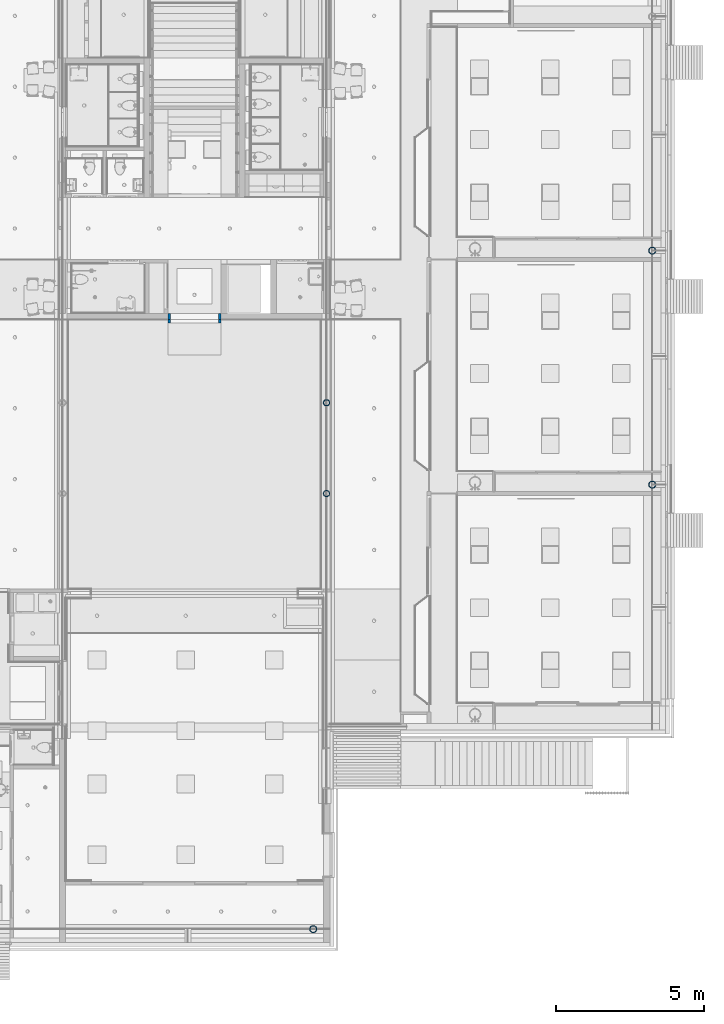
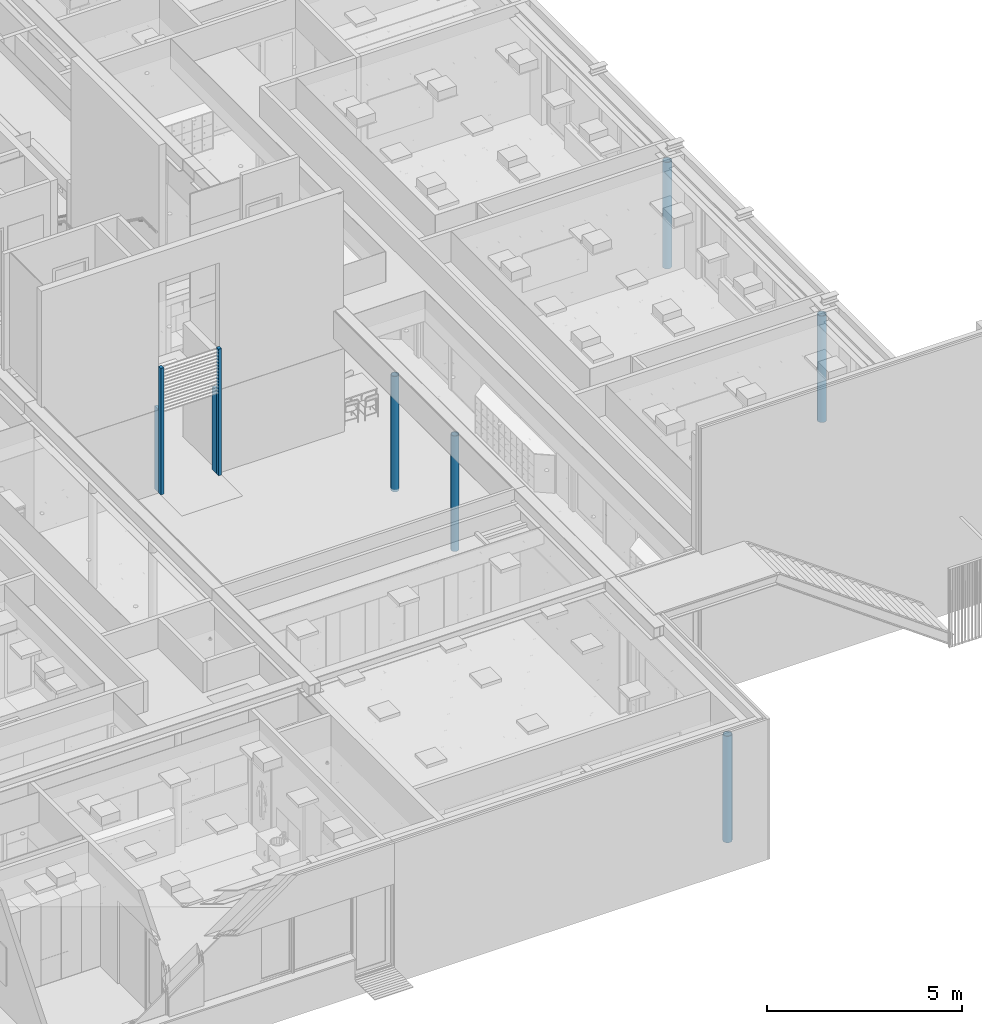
# One storey, part 17 of 347: 9 columns.
"""IFC2X3 building model written with IfcOpenShell, lengths in millimetres."""

from ifc_helpers import new_model, entity, si_unit, converted_unit, derived_unit, money_unit, direction, frame, origin_with_axes, place, context, subcontext, project, spatial, faceted_brep, material, type_object, element, save


model = new_model("IFC2X3")

# Units and contexts
model_context = context("Model", 3, precision=0.01, world=origin_with_axes(), true_north=direction((0.0, 1.0)))
plan_context = context("Plan", 3, precision=0.01, world=origin_with_axes(), true_north=direction((0.0, 1.0)))
body_context = subcontext(model_context, "Body", "Model", "MODEL_VIEW")
ifc_project = project(units=[si_unit("LENGTHUNIT", "METRE", prefix="MILLI"), si_unit("AREAUNIT", "SQUARE_METRE"), si_unit("VOLUMEUNIT", "CUBIC_METRE"), converted_unit("PLANEANGLEUNIT", "DEGREE", entity("IfcPlaneAngleMeasure", 0.0174532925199), si_unit("PLANEANGLEUNIT", "RADIAN"), dimensions=[0, 0, 0, 0, 0, 0, 0]), money_unit("EUR"), converted_unit("TIMEUNIT", "Year", entity("IfcTimeMeasure", 31556926.0), si_unit("TIMEUNIT", "SECOND"), dimensions=[0, 0, 1, 0, 0, 0, 0]), si_unit("MASSUNIT", "GRAM", prefix="KILO"), si_unit("THERMODYNAMICTEMPERATUREUNIT", "DEGREE_CELSIUS"), si_unit("LUMINOUSINTENSITYUNIT", "LUMEN"), si_unit("ENERGYUNIT", "JOULE", prefix="MEGA"), derived_unit("THERMALCONDUCTANCEUNIT", [(si_unit("POWERUNIT", "WATT"), 1), (si_unit("LENGTHUNIT", "METRE"), -1), (si_unit("THERMODYNAMICTEMPERATUREUNIT", "KELVIN"), -1)]), derived_unit("SPECIFICHEATCAPACITYUNIT", [(si_unit("ENERGYUNIT", "JOULE"), 1), (si_unit("MASSUNIT", "GRAM", prefix="KILO"), -1), (si_unit("THERMODYNAMICTEMPERATUREUNIT", "KELVIN"), -1)]), derived_unit("MASSDENSITYUNIT", [(si_unit("MASSUNIT", "GRAM", prefix="KILO"), 1), (si_unit("VOLUMEUNIT", "CUBIC_METRE"), -1)])], contexts=[model_context, plan_context])

# Site, building, storey
site_placement = place(None, origin_with_axes())
site = spatial("IfcSite", under=ifc_project, at=site_placement, Name="Site", CompositionType="ELEMENT")
building_placement = place(site_placement, origin_with_axes())
building = spatial("IfcBuilding", under=site, at=building_placement, Name="Naam gebouw", CompositionType="ELEMENT")
storey_placement = place(building_placement, origin_with_axes())
storey = spatial("IfcBuildingStorey", under=building, at=storey_placement, Name="begane grond", CompositionType="ELEMENT", Elevation=0.0)

# Columns
ifc_material_1 = material(Name="32 Hout binnenkozijn oregon pine")
column_type_1 = type_object("IfcColumnType", Name="32 Hout binnenkozijn oregon pine 90 x 210", PredefinedType="COLUMN")
for number, where, z_axis, x_axis in (
    (1, (40930.0, 26045.0, 0.0), (0.0, 0.0, 1.0), (1.0, 0.0, 0.0)),
    (2, (39220.0, 26045.0, 0.0), (0.0, 0.0, 1.0), (1.0, 0.0, 0.0)),
):
    element("IfcColumn", number, at=place(storey_placement, frame(where, z_axis=z_axis, x_axis=x_axis)), inside=storey, type_object=column_type_1, material=ifc_material_1, Name="28_kolom ø 273mm", ObjectType="COLUMN", context=body_context, shape_type="Brep", body=[
        faceted_brep([(-45.0, -105.0, 2600.0), (-45.0, -105.0, 0.0), (45.0, -105.0, 0.0), (45.0, -105.0, 2600.0), (-45.0, 105.0, 2600.0), (-45.0, 105.0, 0.0), (45.0, 105.0, 0.0), (45.0, 105.0, 2600.0)], [[[0, 1, 2, 3]], [[4, 5, 1, 0]], [[2, 1, 5, 6]], [[3, 2, 6, 7]], [[4, 0, 3, 7]], [[7, 6, 5, 4]]]),
    ])
ifc_material_2 = material(Name="Metaal - Staal C wit")
column_type_2 = type_object("IfcColumnType", Name="Lucht D245", PredefinedType="COLUMN")
column_1_placement = place(storey_placement, frame((55575.0, 28275.0, -70.0), z_axis=(0.0, 0.0, 1.0), x_axis=(1.0, 0.0, 0.0)))
element("IfcColumn", 3, at=column_1_placement, inside=storey, type_object=column_type_2, material=ifc_material_2, Name="28_kolom ø 273mm", ObjectType="COLUMN", context=body_context, shape_type="Brep", body=[
    faceted_brep([(-122.25, 0.0, 0.0), (-119.184937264, -27.2031841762, 0.0), (-119.184937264, -27.2031841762, 3330.0), (-122.25, 0.0, 3330.0), (-119.184937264, 27.2031841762, 0.0), (-110.143444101, 53.0422871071, 0.0), (-95.5788987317, 76.2216282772, 0.0), (-76.2216282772, 95.5788987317, 0.0), (-53.0422871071, 110.143444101, 0.0), (-27.2031841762, 119.184937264, 0.0), (0.0, 122.25, 0.0), (27.2031841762, 119.184937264, 0.0), (53.0422871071, 110.143444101, 0.0), (76.2216282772, 95.5788987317, 0.0), (95.5788987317, 76.2216282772, 0.0), (110.143444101, 53.0422871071, 0.0), (119.184937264, 27.2031841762, 0.0), (122.25, 0.0, 0.0), (119.184937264, -27.2031841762, 0.0), (110.143444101, -53.0422871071, 0.0), (95.5788987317, -76.2216282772, 0.0), (76.2216282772, -95.5788987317, 0.0), (53.0422871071, -110.143444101, 0.0), (27.2031841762, -119.184937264, 0.0), (0.0, -122.25, 0.0), (-27.2031841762, -119.184937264, 0.0), (-53.0422871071, -110.143444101, 0.0), (-76.2216282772, -95.5788987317, 0.0), (-95.5788987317, -76.2216282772, 0.0), (-110.143444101, -53.0422871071, 0.0), (-106.25, 0.0, 0.0), (-102.629619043, -27.4995235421, 0.0), (-92.0151991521, -53.125, 0.0), (-75.1300955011, -75.1300955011, 0.0), (-53.125, -92.0151991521, 0.0), (-27.4995235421, -102.629619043, 0.0), (0.0, -106.25, 0.0), (27.4995235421, -102.629619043, 0.0), (53.125, -92.0151991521, 0.0), (75.1300955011, -75.1300955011, 0.0), (92.0151991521, -53.125, 0.0), (102.629619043, -27.4995235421, 0.0), (106.25, 0.0, 0.0), (102.629619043, 27.4995235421, 0.0), (92.0151991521, 53.125, 0.0), (75.1300955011, 75.1300955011, 0.0), (53.125, 92.0151991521, 0.0), (27.4995235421, 102.629619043, 0.0), (0.0, 106.25, 0.0), (-27.4995235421, 102.629619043, 0.0), (-53.125, 92.0151991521, 0.0), (-75.1300955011, 75.1300955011, 0.0), (-92.0151991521, 53.125, 0.0), (-102.629619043, 27.4995235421, 0.0), (-110.143444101, -53.0422871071, 3330.0), (-95.5788987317, -76.2216282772, 3330.0), (-76.2216282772, -95.5788987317, 3330.0), (-53.0422871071, -110.143444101, 3330.0), (-27.2031841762, -119.184937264, 3330.0), (0.0, -122.25, 3330.0), (27.2031841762, -119.184937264, 3330.0), (53.0422871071, -110.143444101, 3330.0), (76.2216282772, -95.5788987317, 3330.0), (95.5788987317, -76.2216282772, 3330.0), (110.143444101, -53.0422871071, 3330.0), (119.184937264, -27.2031841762, 3330.0), (122.25, 0.0, 3330.0), (119.184937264, 27.2031841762, 3330.0), (110.143444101, 53.0422871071, 3330.0), (95.5788987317, 76.2216282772, 3330.0), (76.2216282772, 95.5788987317, 3330.0), (53.0422871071, 110.143444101, 3330.0), (27.2031841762, 119.184937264, 3330.0), (0.0, 122.25, 3330.0), (-27.2031841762, 119.184937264, 3330.0), (-53.0422871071, 110.143444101, 3330.0), (-76.2216282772, 95.5788987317, 3330.0), (-95.5788987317, 76.2216282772, 3330.0), (-110.143444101, 53.0422871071, 3330.0), (-119.184937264, 27.2031841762, 3330.0), (-106.25, 0.0, 3330.0), (-102.629619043, 27.4995235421, 3330.0), (-92.0151991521, 53.125, 3330.0), (-75.1300955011, 75.1300955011, 3330.0), (-53.125, 92.0151991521, 3330.0), (-27.4995235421, 102.629619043, 3330.0), (0.0, 106.25, 3330.0), (27.4995235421, 102.629619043, 3330.0), (53.125, 92.0151991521, 3330.0), (75.1300955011, 75.1300955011, 3330.0), (92.0151991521, 53.125, 3330.0), (102.629619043, 27.4995235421, 3330.0), (106.25, 0.0, 3330.0), (102.629619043, -27.4995235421, 3330.0), (92.0151991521, -53.125, 3330.0), (75.1300955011, -75.1300955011, 3330.0), (53.125, -92.0151991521, 3330.0), (27.4995235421, -102.629619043, 3330.0), (0.0, -106.25, 3330.0), (-27.4995235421, -102.629619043, 3330.0), (-53.125, -92.0151991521, 3330.0), (-75.1300955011, -75.1300955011, 3330.0), (-92.0151991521, -53.125, 3330.0), (-102.629619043, -27.4995235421, 3330.0)], [[[0, 1, 2, 3]], [[0, 4, 5, 6, 7, 8, 9, 10, 11, 12, 13, 14, 15, 16, 17, 18, 19, 20, 21, 22, 23, 24, 25, 26, 27, 28, 29, 1], [30, 31, 32, 33, 34, 35, 36, 37, 38, 39, 40, 41, 42, 43, 44, 45, 46, 47, 48, 49, 50, 51, 52, 53]], [[1, 29, 54, 2]], [[3, 2, 54, 55, 56, 57, 58, 59, 60, 61, 62, 63, 64, 65, 66, 67, 68, 69, 70, 71, 72, 73, 74, 75, 76, 77, 78, 79], [80, 81, 82, 83, 84, 85, 86, 87, 88, 89, 90, 91, 92, 93, 94, 95, 96, 97, 98, 99, 100, 101, 102, 103]], [[4, 0, 3, 79]], [[5, 4, 79, 78]], [[6, 5, 78, 77]], [[7, 6, 77, 76]], [[8, 7, 76, 75]], [[9, 8, 75, 74]], [[10, 9, 74, 73]], [[11, 10, 73, 72]], [[12, 11, 72, 71]], [[13, 12, 71, 70]], [[14, 13, 70, 69]], [[15, 14, 69, 68]], [[16, 15, 68, 67]], [[17, 16, 67, 66]], [[18, 17, 66, 65]], [[19, 18, 65, 64]], [[20, 19, 64, 63]], [[21, 20, 63, 62]], [[22, 21, 62, 61]], [[23, 22, 61, 60]], [[24, 23, 60, 59]], [[25, 24, 59, 58]], [[26, 25, 58, 57]], [[27, 26, 57, 56]], [[28, 27, 56, 55]], [[29, 28, 55, 54]], [[31, 30, 80, 103]], [[32, 31, 103, 102]], [[33, 32, 102, 101]], [[34, 33, 101, 100]], [[35, 34, 100, 99]], [[36, 35, 99, 98]], [[37, 36, 98, 97]], [[38, 37, 97, 96]], [[39, 38, 96, 95]], [[40, 39, 95, 94]], [[41, 40, 94, 93]], [[42, 41, 93, 92]], [[43, 42, 92, 91]], [[44, 43, 91, 90]], [[45, 44, 90, 89]], [[46, 45, 89, 88]], [[47, 46, 88, 87]], [[48, 47, 87, 86]], [[49, 48, 86, 85]], [[50, 49, 85, 84]], [[51, 50, 84, 83]], [[52, 51, 83, 82]], [[53, 52, 82, 81]], [[30, 53, 81, 80]]]),
])
column_2_placement = place(storey_placement, frame((44095.0, 5300.0, -70.0), z_axis=(0.0, 0.0, 1.0), x_axis=(1.0, 0.0, 0.0)))
element("IfcColumn", 4, at=column_2_placement, inside=storey, type_object=column_type_2, material=ifc_material_2, Name="28_kolom ø 273mm", ObjectType="COLUMN", context=body_context, shape_type="Brep", body=[
    faceted_brep([(119.184937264, 27.2031841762, 0.0), (110.143444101, 53.0422871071, 0.0), (110.143444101, 53.0422871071, 3330.0), (119.184937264, 27.2031841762, 3330.0), (122.25, 0.0, 0.0), (119.184937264, -27.2031841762, 0.0), (110.143444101, -53.0422871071, 0.0), (95.5788987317, -76.2216282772, 0.0), (76.2216282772, -95.5788987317, 0.0), (53.0422871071, -110.143444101, 0.0), (27.2031841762, -119.184937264, 0.0), (0.0, -122.25, 0.0), (-27.2031841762, -119.184937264, 0.0), (-53.0422871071, -110.143444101, 0.0), (-76.2216282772, -95.5788987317, 0.0), (-95.5788987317, -76.2216282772, 0.0), (-110.143444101, -53.0422871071, 0.0), (-119.184937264, -27.2031841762, 0.0), (-122.25, 0.0, 0.0), (-119.184937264, 27.2031841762, 0.0), (-110.143444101, 53.0422871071, 0.0), (-95.5788987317, 76.2216282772, 0.0), (-76.2216282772, 95.5788987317, 0.0), (-53.0422871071, 110.143444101, 0.0), (-27.2031841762, 119.184937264, 0.0), (0.0, 122.25, 0.0), (27.2031841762, 119.184937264, 0.0), (53.0422871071, 110.143444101, 0.0), (76.2216282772, 95.5788987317, 0.0), (95.5788987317, 76.2216282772, 0.0), (102.629619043, -27.4995235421, 0.0), (106.25, 0.0, 0.0), (102.629619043, 27.4995235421, 0.0), (92.0151991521, 53.125, 0.0), (75.1300955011, 75.1300955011, 0.0), (53.125, 92.0151991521, 0.0), (27.4995235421, 102.629619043, 0.0), (0.0, 106.25, 0.0), (-27.4995235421, 102.629619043, 0.0), (-53.125, 92.0151991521, 0.0), (-75.1300955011, 75.1300955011, 0.0), (-92.0151991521, 53.125, 0.0), (-102.629619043, 27.4995235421, 0.0), (-106.25, 0.0, 0.0), (-102.629619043, -27.4995235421, 0.0), (-92.0151991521, -53.125, 0.0), (-75.1300955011, -75.1300955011, 0.0), (-53.125, -92.0151991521, 0.0), (-27.4995235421, -102.629619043, 0.0), (0.0, -106.25, 0.0), (27.4995235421, -102.629619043, 0.0), (53.125, -92.0151991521, 0.0), (75.1300955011, -75.1300955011, 0.0), (92.0151991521, -53.125, 0.0), (95.5788987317, 76.2216282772, 3330.0), (76.2216282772, 95.5788987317, 3330.0), (53.0422871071, 110.143444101, 3330.0), (27.2031841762, 119.184937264, 3330.0), (0.0, 122.25, 3330.0), (-27.2031841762, 119.184937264, 3330.0), (-53.0422871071, 110.143444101, 3330.0), (-76.2216282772, 95.5788987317, 3330.0), (-95.5788987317, 76.2216282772, 3330.0), (-110.143444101, 53.0422871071, 3330.0), (-119.184937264, 27.2031841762, 3330.0), (-122.25, 0.0, 3330.0), (-119.184937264, -27.2031841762, 3330.0), (-110.143444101, -53.0422871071, 3330.0), (-95.5788987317, -76.2216282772, 3330.0), (-76.2216282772, -95.5788987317, 3330.0), (-53.0422871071, -110.143444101, 3330.0), (-27.2031841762, -119.184937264, 3330.0), (0.0, -122.25, 3330.0), (27.2031841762, -119.184937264, 3330.0), (53.0422871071, -110.143444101, 3330.0), (76.2216282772, -95.5788987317, 3330.0), (95.5788987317, -76.2216282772, 3330.0), (110.143444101, -53.0422871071, 3330.0), (119.184937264, -27.2031841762, 3330.0), (122.25, 0.0, 3330.0), (102.629619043, -27.4995235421, 3330.0), (92.0151991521, -53.125, 3330.0), (75.1300955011, -75.1300955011, 3330.0), (53.125, -92.0151991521, 3330.0), (27.4995235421, -102.629619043, 3330.0), (0.0, -106.25, 3330.0), (-27.4995235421, -102.629619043, 3330.0), (-53.125, -92.0151991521, 3330.0), (-75.1300955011, -75.1300955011, 3330.0), (-92.0151991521, -53.125, 3330.0), (-102.629619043, -27.4995235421, 3330.0), (-106.25, 0.0, 3330.0), (-102.629619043, 27.4995235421, 3330.0), (-92.0151991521, 53.125, 3330.0), (-75.1300955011, 75.1300955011, 3330.0), (-53.125, 92.0151991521, 3330.0), (-27.4995235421, 102.629619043, 3330.0), (0.0, 106.25, 3330.0), (27.4995235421, 102.629619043, 3330.0), (53.125, 92.0151991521, 3330.0), (75.1300955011, 75.1300955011, 3330.0), (92.0151991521, 53.125, 3330.0), (102.629619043, 27.4995235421, 3330.0), (106.25, 0.0, 3330.0)], [[[0, 1, 2, 3]], [[0, 4, 5, 6, 7, 8, 9, 10, 11, 12, 13, 14, 15, 16, 17, 18, 19, 20, 21, 22, 23, 24, 25, 26, 27, 28, 29, 1], [30, 31, 32, 33, 34, 35, 36, 37, 38, 39, 40, 41, 42, 43, 44, 45, 46, 47, 48, 49, 50, 51, 52, 53]], [[1, 29, 54, 2]], [[3, 2, 54, 55, 56, 57, 58, 59, 60, 61, 62, 63, 64, 65, 66, 67, 68, 69, 70, 71, 72, 73, 74, 75, 76, 77, 78, 79], [80, 81, 82, 83, 84, 85, 86, 87, 88, 89, 90, 91, 92, 93, 94, 95, 96, 97, 98, 99, 100, 101, 102, 103]], [[4, 0, 3, 79]], [[5, 4, 79, 78]], [[6, 5, 78, 77]], [[7, 6, 77, 76]], [[8, 7, 76, 75]], [[9, 8, 75, 74]], [[10, 9, 74, 73]], [[11, 10, 73, 72]], [[12, 11, 72, 71]], [[13, 12, 71, 70]], [[14, 13, 70, 69]], [[15, 14, 69, 68]], [[16, 15, 68, 67]], [[17, 16, 67, 66]], [[18, 17, 66, 65]], [[19, 18, 65, 64]], [[20, 19, 64, 63]], [[21, 20, 63, 62]], [[22, 21, 62, 61]], [[23, 22, 61, 60]], [[24, 23, 60, 59]], [[25, 24, 59, 58]], [[26, 25, 58, 57]], [[27, 26, 57, 56]], [[28, 27, 56, 55]], [[29, 28, 55, 54]], [[31, 30, 80, 103]], [[32, 31, 103, 102]], [[33, 32, 102, 101]], [[34, 33, 101, 100]], [[35, 34, 100, 99]], [[36, 35, 99, 98]], [[37, 36, 98, 97]], [[38, 37, 97, 96]], [[39, 38, 96, 95]], [[40, 39, 95, 94]], [[41, 40, 94, 93]], [[42, 41, 93, 92]], [[43, 42, 92, 91]], [[44, 43, 91, 90]], [[45, 44, 90, 89]], [[46, 45, 89, 88]], [[47, 46, 88, 87]], [[48, 47, 87, 86]], [[49, 48, 86, 85]], [[50, 49, 85, 84]], [[51, 50, 84, 83]], [[52, 51, 83, 82]], [[53, 52, 82, 81]], [[30, 53, 81, 80]]]),
])
column_3_placement = place(storey_placement, frame((55575.0, 20350.0, -70.0), z_axis=(0.0, 0.0, 1.0), x_axis=(1.0, 0.0, 0.0)))
element("IfcColumn", 5, at=column_3_placement, inside=storey, type_object=column_type_2, material=ifc_material_2, Name="28_kolom ø 273mm", ObjectType="COLUMN", context=body_context, shape_type="Brep", body=[
    faceted_brep([(-122.25, 0.0, 0.0), (-119.184937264, -27.2031841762, 0.0), (-119.184937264, -27.2031841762, 3330.0), (-122.25, 0.0, 3330.0), (-119.184937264, 27.2031841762, 0.0), (-110.143444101, 53.0422871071, 0.0), (-95.5788987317, 76.2216282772, 0.0), (-76.2216282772, 95.5788987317, 0.0), (-53.0422871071, 110.143444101, 0.0), (-27.2031841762, 119.184937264, 0.0), (0.0, 122.25, 0.0), (27.2031841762, 119.184937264, 0.0), (53.0422871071, 110.143444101, 0.0), (76.2216282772, 95.5788987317, 0.0), (95.5788987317, 76.2216282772, 0.0), (110.143444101, 53.0422871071, 0.0), (119.184937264, 27.2031841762, 0.0), (122.25, 0.0, 0.0), (119.184937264, -27.2031841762, 0.0), (110.143444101, -53.0422871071, 0.0), (95.5788987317, -76.2216282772, 0.0), (76.2216282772, -95.5788987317, 0.0), (53.0422871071, -110.143444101, 0.0), (27.2031841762, -119.184937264, 0.0), (0.0, -122.25, 0.0), (-27.2031841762, -119.184937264, 0.0), (-53.0422871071, -110.143444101, 0.0), (-76.2216282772, -95.5788987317, 0.0), (-95.5788987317, -76.2216282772, 0.0), (-110.143444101, -53.0422871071, 0.0), (-106.25, 0.0, 0.0), (-102.629619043, -27.4995235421, 0.0), (-92.0151991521, -53.125, 0.0), (-75.1300955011, -75.1300955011, 0.0), (-53.125, -92.0151991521, 0.0), (-27.4995235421, -102.629619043, 0.0), (0.0, -106.25, 0.0), (27.4995235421, -102.629619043, 0.0), (53.125, -92.0151991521, 0.0), (75.1300955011, -75.1300955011, 0.0), (92.0151991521, -53.125, 0.0), (102.629619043, -27.4995235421, 0.0), (106.25, 0.0, 0.0), (102.629619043, 27.4995235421, 0.0), (92.0151991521, 53.125, 0.0), (75.1300955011, 75.1300955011, 0.0), (53.125, 92.0151991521, 0.0), (27.4995235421, 102.629619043, 0.0), (0.0, 106.25, 0.0), (-27.4995235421, 102.629619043, 0.0), (-53.125, 92.0151991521, 0.0), (-75.1300955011, 75.1300955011, 0.0), (-92.0151991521, 53.125, 0.0), (-102.629619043, 27.4995235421, 0.0), (-110.143444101, -53.0422871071, 3330.0), (-95.5788987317, -76.2216282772, 3330.0), (-76.2216282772, -95.5788987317, 3330.0), (-53.0422871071, -110.143444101, 3330.0), (-27.2031841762, -119.184937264, 3330.0), (0.0, -122.25, 3330.0), (27.2031841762, -119.184937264, 3330.0), (53.0422871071, -110.143444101, 3330.0), (76.2216282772, -95.5788987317, 3330.0), (95.5788987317, -76.2216282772, 3330.0), (110.143444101, -53.0422871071, 3330.0), (119.184937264, -27.2031841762, 3330.0), (122.25, 0.0, 3330.0), (119.184937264, 27.2031841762, 3330.0), (110.143444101, 53.0422871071, 3330.0), (95.5788987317, 76.2216282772, 3330.0), (76.2216282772, 95.5788987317, 3330.0), (53.0422871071, 110.143444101, 3330.0), (27.2031841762, 119.184937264, 3330.0), (0.0, 122.25, 3330.0), (-27.2031841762, 119.184937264, 3330.0), (-53.0422871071, 110.143444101, 3330.0), (-76.2216282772, 95.5788987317, 3330.0), (-95.5788987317, 76.2216282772, 3330.0), (-110.143444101, 53.0422871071, 3330.0), (-119.184937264, 27.2031841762, 3330.0), (-106.25, 0.0, 3330.0), (-102.629619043, 27.4995235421, 3330.0), (-92.0151991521, 53.125, 3330.0), (-75.1300955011, 75.1300955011, 3330.0), (-53.125, 92.0151991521, 3330.0), (-27.4995235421, 102.629619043, 3330.0), (0.0, 106.25, 3330.0), (27.4995235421, 102.629619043, 3330.0), (53.125, 92.0151991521, 3330.0), (75.1300955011, 75.1300955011, 3330.0), (92.0151991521, 53.125, 3330.0), (102.629619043, 27.4995235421, 3330.0), (106.25, 0.0, 3330.0), (102.629619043, -27.4995235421, 3330.0), (92.0151991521, -53.125, 3330.0), (75.1300955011, -75.1300955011, 3330.0), (53.125, -92.0151991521, 3330.0), (27.4995235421, -102.629619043, 3330.0), (0.0, -106.25, 3330.0), (-27.4995235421, -102.629619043, 3330.0), (-53.125, -92.0151991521, 3330.0), (-75.1300955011, -75.1300955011, 3330.0), (-92.0151991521, -53.125, 3330.0), (-102.629619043, -27.4995235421, 3330.0)], [[[0, 1, 2, 3]], [[0, 4, 5, 6, 7, 8, 9, 10, 11, 12, 13, 14, 15, 16, 17, 18, 19, 20, 21, 22, 23, 24, 25, 26, 27, 28, 29, 1], [30, 31, 32, 33, 34, 35, 36, 37, 38, 39, 40, 41, 42, 43, 44, 45, 46, 47, 48, 49, 50, 51, 52, 53]], [[1, 29, 54, 2]], [[3, 2, 54, 55, 56, 57, 58, 59, 60, 61, 62, 63, 64, 65, 66, 67, 68, 69, 70, 71, 72, 73, 74, 75, 76, 77, 78, 79], [80, 81, 82, 83, 84, 85, 86, 87, 88, 89, 90, 91, 92, 93, 94, 95, 96, 97, 98, 99, 100, 101, 102, 103]], [[4, 0, 3, 79]], [[5, 4, 79, 78]], [[6, 5, 78, 77]], [[7, 6, 77, 76]], [[8, 7, 76, 75]], [[9, 8, 75, 74]], [[10, 9, 74, 73]], [[11, 10, 73, 72]], [[12, 11, 72, 71]], [[13, 12, 71, 70]], [[14, 13, 70, 69]], [[15, 14, 69, 68]], [[16, 15, 68, 67]], [[17, 16, 67, 66]], [[18, 17, 66, 65]], [[19, 18, 65, 64]], [[20, 19, 64, 63]], [[21, 20, 63, 62]], [[22, 21, 62, 61]], [[23, 22, 61, 60]], [[24, 23, 60, 59]], [[25, 24, 59, 58]], [[26, 25, 58, 57]], [[27, 26, 57, 56]], [[28, 27, 56, 55]], [[29, 28, 55, 54]], [[31, 30, 80, 103]], [[32, 31, 103, 102]], [[33, 32, 102, 101]], [[34, 33, 101, 100]], [[35, 34, 100, 99]], [[36, 35, 99, 98]], [[37, 36, 98, 97]], [[38, 37, 97, 96]], [[39, 38, 96, 95]], [[40, 39, 95, 94]], [[41, 40, 94, 93]], [[42, 41, 93, 92]], [[43, 42, 92, 91]], [[44, 43, 91, 90]], [[45, 44, 90, 89]], [[46, 45, 89, 88]], [[47, 46, 88, 87]], [[48, 47, 87, 86]], [[49, 48, 86, 85]], [[50, 49, 85, 84]], [[51, 50, 84, 83]], [[52, 51, 83, 82]], [[53, 52, 82, 81]], [[30, 53, 81, 80]]]),
])
column_type_3 = type_object("IfcColumnType", Name="32 Hout binnenkozijn oregon pine 90 x 114", PredefinedType="COLUMN")
for number, where, z_axis, x_axis in (
    (6, (40930.0, 25883.0, 0.0), (0.0, 0.0, 1.0), (1.0, 0.0, 0.0)),
    (7, (39220.0, 25883.0, 0.0), (0.0, 0.0, 1.0), (1.0, 0.0, 0.0)),
):
    element("IfcColumn", number, at=place(storey_placement, frame(where, z_axis=z_axis, x_axis=x_axis)), inside=storey, type_object=column_type_3, material=ifc_material_1, Name="28_kolom ø 273mm", ObjectType="COLUMN", context=body_context, shape_type="Brep", body=[
        faceted_brep([(-45.0, -57.0, 3960.0), (-45.0, -57.0, 0.0), (45.0, -57.0, 0.0), (45.0, -57.0, 3960.0), (-45.0, 57.0, 3960.0), (-45.0, 57.0, 0.0), (45.0, 57.0, 0.0), (45.0, 57.0, 3960.0)], [[[0, 1, 2, 3]], [[4, 5, 1, 0]], [[2, 1, 5, 6]], [[3, 2, 6, 7]], [[4, 0, 3, 7]], [[7, 6, 5, 4]]]),
    ])
column_type_4 = type_object("IfcColumnType", Name="Lucht D219", PredefinedType="COLUMN")
column_4_placement = place(storey_placement, frame((44545.0, 23125.0, -70.0), z_axis=(0.0, 0.0, 1.0), x_axis=(1.0, 0.0, 0.0)))
element("IfcColumn", 8, at=column_4_placement, inside=storey, type_object=column_type_4, material=ifc_material_2, Name="28_kolom ø 273mm", ObjectType="COLUMN", context=body_context, shape_type="Brep", body=[
    faceted_brep([(-109.55, 0.0, 0.0), (-105.81717427, -28.353626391, 0.0), (-105.81717427, -28.353626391, 3610.0), (-109.55, 0.0, 3610.0), (-105.81717427, 28.353626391, 0.0), (-94.8730829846, 54.775, 0.0), (-77.463547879, 77.463547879, 0.0), (-54.775, 94.8730829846, 0.0), (-28.353626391, 105.81717427, 0.0), (0.0, 109.55, 0.0), (28.353626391, 105.81717427, 0.0), (54.775, 94.8730829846, 0.0), (77.463547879, 77.463547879, 0.0), (94.8730829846, 54.775, 0.0), (105.81717427, 28.353626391, 0.0), (109.55, 0.0, 0.0), (105.81717427, -28.353626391, 0.0), (94.8730829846, -54.775, 0.0), (77.463547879, -77.463547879, 0.0), (54.775, -94.8730829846, 0.0), (28.353626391, -105.81717427, 0.0), (0.0, -109.55, 0.0), (-28.353626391, -105.81717427, 0.0), (-54.775, -94.8730829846, 0.0), (-77.463547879, -77.463547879, 0.0), (-94.8730829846, -54.775, 0.0), (-93.55, 0.0, 0.0), (-89.7605676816, -26.3560806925, 0.0), (-78.6992679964, -50.576948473, 0.0), (-61.2622216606, -70.7003726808, 0.0), (-38.8620744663, -85.0960731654, 0.0), (-13.3135531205, -92.597795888, 0.0), (13.3135531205, -92.597795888, 0.0), (38.8620744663, -85.0960731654, 0.0), (61.2622216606, -70.7003726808, 0.0), (78.6992679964, -50.576948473, 0.0), (89.7605676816, -26.3560806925, 0.0), (93.55, 0.0, 0.0), (89.7605676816, 26.3560806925, 0.0), (78.6992679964, 50.576948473, 0.0), (61.2622216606, 70.7003726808, 0.0), (38.8620744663, 85.0960731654, 0.0), (13.3135531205, 92.597795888, 0.0), (-13.3135531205, 92.597795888, 0.0), (-38.8620744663, 85.0960731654, 0.0), (-61.2622216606, 70.7003726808, 0.0), (-78.6992679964, 50.576948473, 0.0), (-89.7605676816, 26.3560806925, 0.0), (-94.8730829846, -54.775, 3610.0), (-77.463547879, -77.463547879, 3610.0), (-54.775, -94.8730829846, 3610.0), (-28.353626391, -105.81717427, 3610.0), (0.0, -109.55, 3610.0), (28.353626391, -105.81717427, 3610.0), (54.775, -94.8730829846, 3610.0), (77.463547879, -77.463547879, 3610.0), (94.8730829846, -54.775, 3610.0), (105.81717427, -28.353626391, 3610.0), (109.55, 0.0, 3610.0), (105.81717427, 28.353626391, 3610.0), (94.8730829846, 54.775, 3610.0), (77.463547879, 77.463547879, 3610.0), (54.775, 94.8730829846, 3610.0), (28.353626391, 105.81717427, 3610.0), (0.0, 109.55, 3610.0), (-28.353626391, 105.81717427, 3610.0), (-54.775, 94.8730829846, 3610.0), (-77.463547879, 77.463547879, 3610.0), (-94.8730829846, 54.775, 3610.0), (-105.81717427, 28.353626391, 3610.0), (-93.55, 0.0, 3610.0), (-89.7605676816, 26.3560806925, 3610.0), (-78.6992679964, 50.576948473, 3610.0), (-61.2622216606, 70.7003726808, 3610.0), (-38.8620744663, 85.0960731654, 3610.0), (-13.3135531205, 92.597795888, 3610.0), (13.3135531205, 92.597795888, 3610.0), (38.8620744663, 85.0960731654, 3610.0), (61.2622216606, 70.7003726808, 3610.0), (78.6992679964, 50.576948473, 3610.0), (89.7605676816, 26.3560806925, 3610.0), (93.55, 0.0, 3610.0), (89.7605676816, -26.3560806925, 3610.0), (78.6992679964, -50.576948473, 3610.0), (61.2622216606, -70.7003726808, 3610.0), (38.8620744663, -85.0960731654, 3610.0), (13.3135531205, -92.597795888, 3610.0), (-13.3135531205, -92.597795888, 3610.0), (-38.8620744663, -85.0960731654, 3610.0), (-61.2622216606, -70.7003726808, 3610.0), (-78.6992679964, -50.576948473, 3610.0), (-89.7605676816, -26.3560806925, 3610.0)], [[[0, 1, 2, 3]], [[0, 4, 5, 6, 7, 8, 9, 10, 11, 12, 13, 14, 15, 16, 17, 18, 19, 20, 21, 22, 23, 24, 25, 1], [26, 27, 28, 29, 30, 31, 32, 33, 34, 35, 36, 37, 38, 39, 40, 41, 42, 43, 44, 45, 46, 47]], [[1, 25, 48, 2]], [[3, 2, 48, 49, 50, 51, 52, 53, 54, 55, 56, 57, 58, 59, 60, 61, 62, 63, 64, 65, 66, 67, 68, 69], [70, 71, 72, 73, 74, 75, 76, 77, 78, 79, 80, 81, 82, 83, 84, 85, 86, 87, 88, 89, 90, 91]], [[4, 0, 3, 69]], [[5, 4, 69, 68]], [[6, 5, 68, 67]], [[7, 6, 67, 66]], [[8, 7, 66, 65]], [[9, 8, 65, 64]], [[10, 9, 64, 63]], [[11, 10, 63, 62]], [[12, 11, 62, 61]], [[13, 12, 61, 60]], [[14, 13, 60, 59]], [[15, 14, 59, 58]], [[16, 15, 58, 57]], [[17, 16, 57, 56]], [[18, 17, 56, 55]], [[19, 18, 55, 54]], [[20, 19, 54, 53]], [[21, 20, 53, 52]], [[22, 21, 52, 51]], [[23, 22, 51, 50]], [[24, 23, 50, 49]], [[25, 24, 49, 48]], [[27, 26, 70, 91]], [[28, 27, 91, 90]], [[29, 28, 90, 89]], [[30, 29, 89, 88]], [[31, 30, 88, 87]], [[32, 31, 87, 86]], [[33, 32, 86, 85]], [[34, 33, 85, 84]], [[35, 34, 84, 83]], [[36, 35, 83, 82]], [[37, 36, 82, 81]], [[38, 37, 81, 80]], [[39, 38, 80, 79]], [[40, 39, 79, 78]], [[41, 40, 78, 77]], [[42, 41, 77, 76]], [[43, 42, 76, 75]], [[44, 43, 75, 74]], [[45, 44, 74, 73]], [[46, 45, 73, 72]], [[47, 46, 72, 71]], [[26, 47, 71, 70]]]),
])
column_5_placement = place(storey_placement, frame((44545.0, 20050.0, -70.0), z_axis=(0.0, 0.0, 1.0), x_axis=(1.0, 0.0, 0.0)))
element("IfcColumn", 9, at=column_5_placement, inside=storey, type_object=column_type_4, material=ifc_material_2, Name="28_kolom ø 273mm", ObjectType="COLUMN", context=body_context, shape_type="Brep", body=[
    faceted_brep([(-109.55, 0.0, 0.0), (-105.81717427, -28.353626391, 0.0), (-105.81717427, -28.353626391, 3610.0), (-109.55, 0.0, 3610.0), (-105.81717427, 28.353626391, 0.0), (-94.8730829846, 54.775, 0.0), (-77.463547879, 77.463547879, 0.0), (-54.775, 94.8730829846, 0.0), (-28.353626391, 105.81717427, 0.0), (0.0, 109.55, 0.0), (28.353626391, 105.81717427, 0.0), (54.775, 94.8730829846, 0.0), (77.463547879, 77.463547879, 0.0), (94.8730829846, 54.775, 0.0), (105.81717427, 28.353626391, 0.0), (109.55, 0.0, 0.0), (105.81717427, -28.353626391, 0.0), (94.8730829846, -54.775, 0.0), (77.463547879, -77.463547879, 0.0), (54.775, -94.8730829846, 0.0), (28.353626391, -105.81717427, 0.0), (0.0, -109.55, 0.0), (-28.353626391, -105.81717427, 0.0), (-54.775, -94.8730829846, 0.0), (-77.463547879, -77.463547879, 0.0), (-94.8730829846, -54.775, 0.0), (-93.55, 0.0, 0.0), (-89.7605676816, -26.3560806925, 0.0), (-78.6992679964, -50.576948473, 0.0), (-61.2622216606, -70.7003726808, 0.0), (-38.8620744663, -85.0960731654, 0.0), (-13.3135531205, -92.597795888, 0.0), (13.3135531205, -92.597795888, 0.0), (38.8620744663, -85.0960731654, 0.0), (61.2622216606, -70.7003726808, 0.0), (78.6992679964, -50.576948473, 0.0), (89.7605676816, -26.3560806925, 0.0), (93.55, 0.0, 0.0), (89.7605676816, 26.3560806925, 0.0), (78.6992679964, 50.576948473, 0.0), (61.2622216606, 70.7003726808, 0.0), (38.8620744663, 85.0960731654, 0.0), (13.3135531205, 92.597795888, 0.0), (-13.3135531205, 92.597795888, 0.0), (-38.8620744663, 85.0960731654, 0.0), (-61.2622216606, 70.7003726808, 0.0), (-78.6992679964, 50.576948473, 0.0), (-89.7605676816, 26.3560806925, 0.0), (-94.8730829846, -54.775, 3610.0), (-77.463547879, -77.463547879, 3610.0), (-54.775, -94.8730829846, 3610.0), (-28.353626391, -105.81717427, 3610.0), (0.0, -109.55, 3610.0), (28.353626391, -105.81717427, 3610.0), (54.775, -94.8730829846, 3610.0), (77.463547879, -77.463547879, 3610.0), (94.8730829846, -54.775, 3610.0), (105.81717427, -28.353626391, 3610.0), (109.55, 0.0, 3610.0), (105.81717427, 28.353626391, 3610.0), (94.8730829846, 54.775, 3610.0), (77.463547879, 77.463547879, 3610.0), (54.775, 94.8730829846, 3610.0), (28.353626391, 105.81717427, 3610.0), (0.0, 109.55, 3610.0), (-28.353626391, 105.81717427, 3610.0), (-54.775, 94.8730829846, 3610.0), (-77.463547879, 77.463547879, 3610.0), (-94.8730829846, 54.775, 3610.0), (-105.81717427, 28.353626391, 3610.0), (-93.55, 0.0, 3610.0), (-89.7605676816, 26.3560806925, 3610.0), (-78.6992679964, 50.576948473, 3610.0), (-61.2622216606, 70.7003726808, 3610.0), (-38.8620744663, 85.0960731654, 3610.0), (-13.3135531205, 92.597795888, 3610.0), (13.3135531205, 92.597795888, 3610.0), (38.8620744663, 85.0960731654, 3610.0), (61.2622216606, 70.7003726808, 3610.0), (78.6992679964, 50.576948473, 3610.0), (89.7605676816, 26.3560806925, 3610.0), (93.55, 0.0, 3610.0), (89.7605676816, -26.3560806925, 3610.0), (78.6992679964, -50.576948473, 3610.0), (61.2622216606, -70.7003726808, 3610.0), (38.8620744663, -85.0960731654, 3610.0), (13.3135531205, -92.597795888, 3610.0), (-13.3135531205, -92.597795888, 3610.0), (-38.8620744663, -85.0960731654, 3610.0), (-61.2622216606, -70.7003726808, 3610.0), (-78.6992679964, -50.576948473, 3610.0), (-89.7605676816, -26.3560806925, 3610.0)], [[[0, 1, 2, 3]], [[0, 4, 5, 6, 7, 8, 9, 10, 11, 12, 13, 14, 15, 16, 17, 18, 19, 20, 21, 22, 23, 24, 25, 1], [26, 27, 28, 29, 30, 31, 32, 33, 34, 35, 36, 37, 38, 39, 40, 41, 42, 43, 44, 45, 46, 47]], [[1, 25, 48, 2]], [[3, 2, 48, 49, 50, 51, 52, 53, 54, 55, 56, 57, 58, 59, 60, 61, 62, 63, 64, 65, 66, 67, 68, 69], [70, 71, 72, 73, 74, 75, 76, 77, 78, 79, 80, 81, 82, 83, 84, 85, 86, 87, 88, 89, 90, 91]], [[4, 0, 3, 69]], [[5, 4, 69, 68]], [[6, 5, 68, 67]], [[7, 6, 67, 66]], [[8, 7, 66, 65]], [[9, 8, 65, 64]], [[10, 9, 64, 63]], [[11, 10, 63, 62]], [[12, 11, 62, 61]], [[13, 12, 61, 60]], [[14, 13, 60, 59]], [[15, 14, 59, 58]], [[16, 15, 58, 57]], [[17, 16, 57, 56]], [[18, 17, 56, 55]], [[19, 18, 55, 54]], [[20, 19, 54, 53]], [[21, 20, 53, 52]], [[22, 21, 52, 51]], [[23, 22, 51, 50]], [[24, 23, 50, 49]], [[25, 24, 49, 48]], [[27, 26, 70, 91]], [[28, 27, 91, 90]], [[29, 28, 90, 89]], [[30, 29, 89, 88]], [[31, 30, 88, 87]], [[32, 31, 87, 86]], [[33, 32, 86, 85]], [[34, 33, 85, 84]], [[35, 34, 84, 83]], [[36, 35, 83, 82]], [[37, 36, 82, 81]], [[38, 37, 81, 80]], [[39, 38, 80, 79]], [[40, 39, 79, 78]], [[41, 40, 78, 77]], [[42, 41, 77, 76]], [[43, 42, 76, 75]], [[44, 43, 75, 74]], [[45, 44, 74, 73]], [[46, 45, 73, 72]], [[47, 46, 72, 71]], [[26, 47, 71, 70]]]),
])

save(model, "model.ifc")
